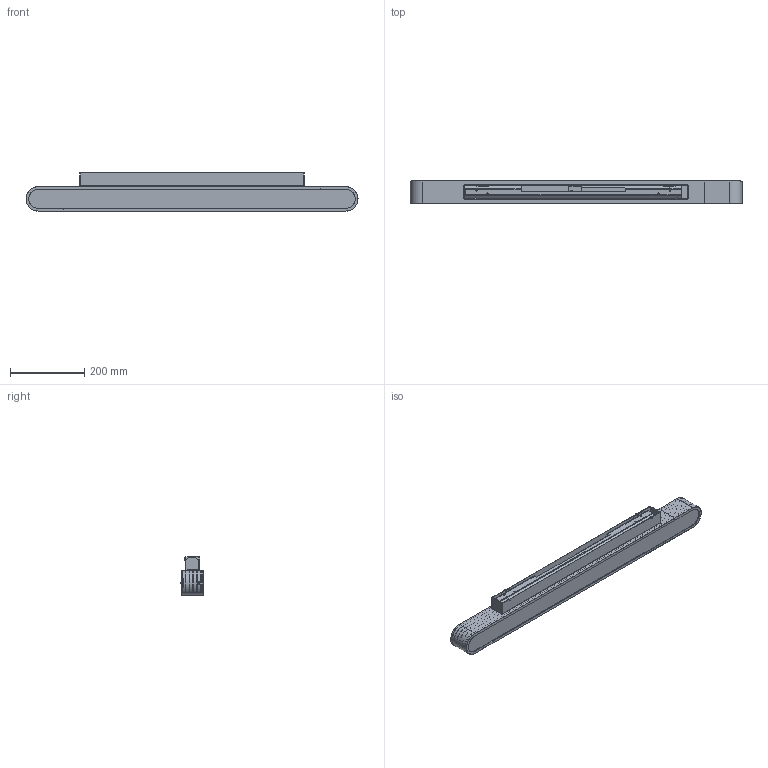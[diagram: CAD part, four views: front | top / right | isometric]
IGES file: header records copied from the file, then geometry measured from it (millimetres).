
Start section: SolidWorks IGES file using analytic representation for surfaces
Global section: file name: C:\Users\Asia\Desktop\SOFT\Soft_7006,7008\Soft_7006,7008.IGS; native system: SolidWorks 2016; preprocessor: SolidWorks 2016; author: Asia; date: 160829.113837; units: millimetre
Bounding box: 892 x 61 x 102.5 mm (x, y, z)
Surface area: 872250.4 mm2 (no closed solid volume)
Topology: 0 solids, 0 shells, 4356 faces, 34484 edges, 34440 vertices
Faces by surface type: bspline 3391, revolution 965
